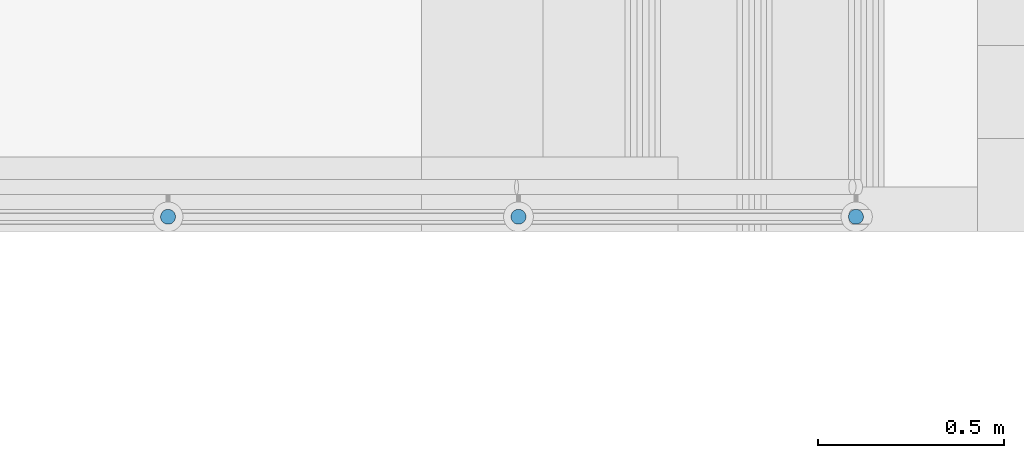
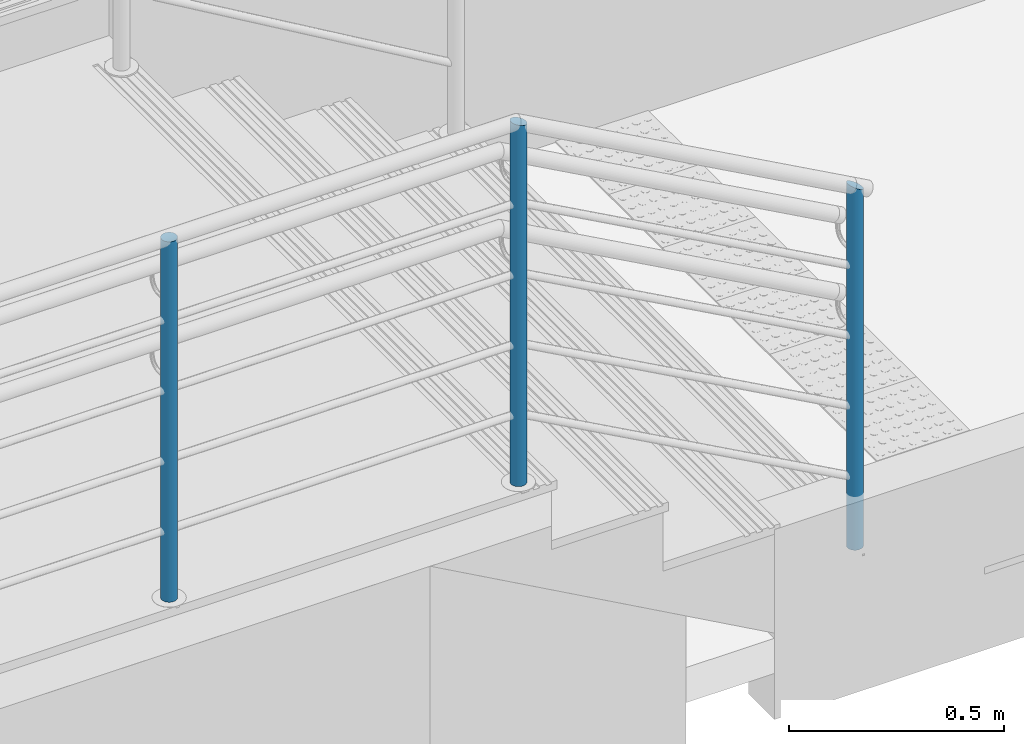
# One storey, part 58 of 237: 3 building element parts, 1 element without a shape of its own.
"""IFC2X3 building model written with IfcOpenShell, lengths in millimetres."""

from ifc_helpers import new_model, entity, si_unit, converted_unit, derived_unit, money_unit, direction, frame, origin_with_axes, place, context, subcontext, project, spatial, faceted_brep, material, type_object, element, aggregate, save


model = new_model("IFC2X3")

# Units and contexts
model_context = context("Model", 3, precision=0.01, world=origin_with_axes(), true_north=direction((0.0, 1.0)))
body_context = subcontext(model_context, "Body", "Model", "MODEL_VIEW")
ifc_project = project(units=[si_unit("LENGTHUNIT", "METRE", prefix="MILLI"), si_unit("AREAUNIT", "SQUARE_METRE"), si_unit("VOLUMEUNIT", "CUBIC_METRE"), converted_unit("PLANEANGLEUNIT", "DEGREE", entity("IfcPlaneAngleMeasure", 0.0174532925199), si_unit("PLANEANGLEUNIT", "RADIAN"), dimensions=[0, 0, 0, 0, 0, 0, 0]), money_unit("USD"), converted_unit("TIMEUNIT", "Year", entity("IfcTimeMeasure", 31556926.0), si_unit("TIMEUNIT", "SECOND"), dimensions=[0, 0, 1, 0, 0, 0, 0]), si_unit("MASSUNIT", "GRAM", prefix="KILO"), si_unit("THERMODYNAMICTEMPERATUREUNIT", "DEGREE_CELSIUS"), si_unit("LUMINOUSINTENSITYUNIT", "LUMEN"), si_unit("ENERGYUNIT", "JOULE", prefix="MEGA"), derived_unit("THERMALCONDUCTANCEUNIT", [(si_unit("POWERUNIT", "WATT"), 1), (si_unit("LENGTHUNIT", "METRE"), -1), (si_unit("THERMODYNAMICTEMPERATUREUNIT", "KELVIN"), -1)]), derived_unit("SPECIFICHEATCAPACITYUNIT", [(si_unit("ENERGYUNIT", "JOULE"), 1), (si_unit("MASSUNIT", "GRAM", prefix="KILO"), -1), (si_unit("THERMODYNAMICTEMPERATUREUNIT", "KELVIN"), -1)]), derived_unit("MASSDENSITYUNIT", [(si_unit("MASSUNIT", "GRAM", prefix="KILO"), 1), (si_unit("VOLUMEUNIT", "CUBIC_METRE"), -1)])], contexts=[model_context])

# Site, building, storey
site_placement = place(None, origin_with_axes())
site = spatial("IfcSite", under=ifc_project, at=site_placement, Name="Local", CompositionType="ELEMENT")
building_placement = place(site_placement, origin_with_axes())
building = spatial("IfcBuilding", under=site, at=building_placement, Name="Construção", CompositionType="ELEMENT")
storey_placement = place(building_placement, origin_with_axes())
storey = spatial("IfcBuildingStorey", under=building, at=storey_placement, Name="Pavimento Térreo", CompositionType="ELEMENT", Elevation=0.0)

# Railing, building element parts
railing_type = type_object("IfcRailingType", Name="Tipo de Guarda-Corpo", PredefinedType="NOTDEFINED")
railing_placement = place(storey_placement, frame((77071.0413397, 23732.4143775, -4865.39060156), z_axis=(0.0, 0.0, 1.0), x_axis=(1.0, 0.0, 0.0)))
railing = element("IfcRailing", 1, at=railing_placement, inside=storey, type_object=railing_type, Name="Guarda-Corpo - 001", PredefinedType="NOTDEFINED")
ifc_material = material(Name="Aço - Inoxidável")
building_element_part_1_placement = place(railing_placement, origin_with_axes())
building_element_part_1 = element("IfcBuildingElementPart", 2, at=building_element_part_1_placement, material=ifc_material, Name="Aço - Inoxidável", context=body_context, shape_type="Brep", body=[
    faceted_brep([(3613.98021794, -3339.69142195, 525.0), (3617.45318149, -3339.99526689, 525.0), (3617.45318149, -3339.99526689, 1550.0), (3613.98021794, -3339.69142195, 1550.89239715), (3620.92614504, -3339.69142195, 525.0), (3610.61277862, -3338.78911931, 525.0), (3607.45318149, -3337.31577497, 525.0), (3604.5974293, -3335.31615575, 525.0), (3602.13229263, -3332.85101908, 525.0), (3600.13267341, -3329.99526689, 525.0), (3598.65932907, -3326.83566976, 525.0), (3597.75702643, -3323.46823044, 525.0), (3597.45318149, -3319.99526689, 525.0), (3597.75702643, -3316.52230334, 525.0), (3598.65932907, -3313.15486402, 525.0), (3600.13267341, -3309.99526689, 525.0), (3602.13229263, -3307.1395147, 525.0), (3604.5974293, -3304.67437803, 525.0), (3607.45318149, -3302.67475882, 525.0), (3610.61277862, -3301.20141448, 525.0), (3613.98021794, -3300.29911183, 525.0), (3617.45318149, -3299.99526689, 525.0), (3620.92614504, -3300.29911183, 525.0), (3624.29358436, -3301.20141448, 525.0), (3627.45318149, -3302.67475882, 525.0), (3630.30893368, -3304.67437803, 525.0), (3632.77407035, -3307.1395147, 525.0), (3634.77368957, -3309.99526689, 525.0), (3636.24703391, -3313.15486402, 525.0), (3637.14933655, -3316.52230334, 525.0), (3637.45318149, -3319.99526689, 525.0), (3637.14933655, -3323.46823044, 525.0), (3636.24703391, -3326.83566976, 525.0), (3634.77368957, -3329.99526689, 525.0), (3632.77407035, -3332.85101908, 525.0), (3630.30893368, -3335.31615575, 525.0), (3627.45318149, -3337.31577497, 525.0), (3624.29358436, -3338.78911931, 525.0), (3620.92614504, -3339.69142195, 1549.10760285), (3597.75702643, -3316.52230334, 1555.06103573), (3597.45318149, -3319.99526689, 1555.13911036), (3597.75702643, -3323.46823044, 1555.06103573), (3598.65932907, -3326.83566976, 1554.82918409), (3600.13267341, -3329.99526689, 1554.45060013), (3602.13229263, -3332.85101908, 1553.93678694), (3604.5974293, -3335.31615575, 1553.30335647), (3607.45318149, -3337.31577497, 1552.56955518), (3610.61277862, -3338.78911931, 1551.75767926), (3624.29358436, -3338.78911931, 1548.24232074), (3627.45318149, -3337.31577497, 1547.43044482), (3630.30893368, -3335.31615575, 1546.69664353), (3632.77407035, -3332.85101908, 1546.06321306), (3634.77368957, -3329.99526689, 1545.54939987), (3636.24703391, -3326.83566976, 1545.17081591), (3637.14933655, -3323.46823044, 1544.93896427), (3637.45318149, -3319.99526689, 1544.86088964), (3637.14933655, -3316.52230334, 1544.93896427), (3636.24703391, -3313.15486402, 1545.17081591), (3634.77368957, -3309.99526689, 1545.54939987), (3632.77407035, -3307.1395147, 1546.06321306), (3630.30893368, -3304.67437803, 1546.69664353), (3627.45318149, -3302.67475882, 1547.43044482), (3624.29358436, -3301.20141448, 1548.24232074), (3620.92614504, -3300.29911183, 1549.10760285), (3617.45318149, -3299.99526689, 1550.0), (3613.98021794, -3300.29911183, 1550.89239715), (3610.61277862, -3301.20141448, 1551.75767926), (3607.45318149, -3302.67475882, 1552.56955518), (3604.5974293, -3304.67437803, 1553.30335647), (3602.13229263, -3307.1395147, 1553.93678694), (3600.13267341, -3309.99526689, 1554.45060013), (3598.65932907, -3313.15486402, 1554.82918409)], [[[0, 1, 2, 3]], [[4, 1, 0, 5, 6, 7, 8, 9, 10, 11, 12, 13, 14, 15, 16, 17, 18, 19, 20, 21, 22, 23, 24, 25, 26, 27, 28, 29, 30, 31, 32, 33, 34, 35, 36, 37]], [[1, 4, 38, 2]], [[39, 40, 41, 42, 43, 44, 45, 46, 47, 3, 2, 38, 48, 49, 50, 51, 52, 53, 54, 55, 56, 57, 58, 59, 60, 61, 62, 63, 64, 65, 66, 67, 68, 69, 70, 71]], [[5, 0, 3, 47]], [[6, 5, 47, 46]], [[7, 6, 46, 45]], [[8, 7, 45, 44]], [[9, 8, 44, 43]], [[10, 9, 43, 42]], [[11, 10, 42, 41]], [[12, 11, 41, 40]], [[13, 12, 40, 39]], [[14, 13, 39, 71]], [[15, 14, 71, 70]], [[16, 15, 70, 69]], [[17, 16, 69, 68]], [[18, 17, 68, 67]], [[19, 18, 67, 66]], [[20, 19, 66, 65]], [[21, 20, 65, 64]], [[22, 21, 64, 63]], [[23, 22, 63, 62]], [[24, 23, 62, 61]], [[25, 24, 61, 60]], [[26, 25, 60, 59]], [[27, 26, 59, 58]], [[28, 27, 58, 57]], [[29, 28, 57, 56]], [[30, 29, 56, 55]], [[31, 30, 55, 54]], [[32, 31, 54, 53]], [[33, 32, 53, 52]], [[34, 33, 52, 51]], [[35, 34, 51, 50]], [[36, 35, 50, 49]], [[37, 36, 49, 48]], [[4, 37, 48, 38]]]),
])
building_element_part_2_placement = place(railing_placement, origin_with_axes())
building_element_part_2 = element("IfcBuildingElementPart", 3, at=building_element_part_2_placement, material=ifc_material, Name="Aço - Inoxidável", context=body_context, shape_type="Brep", body=[
    faceted_brep([(4519.02006685, -3339.69142195, 27.009653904), (4522.4930304, -3339.99526689, 27.009653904), (4522.4930304, -3339.99526689, 1052.0096539), (4519.02006685, -3339.69142195, 1053.92062205), (4525.96599395, -3339.69142195, 27.009653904), (4515.65262753, -3338.78911931, 27.009653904), (4512.4930304, -3337.31577497, 27.009653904), (4509.63727821, -3335.31615575, 27.009653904), (4507.17214154, -3332.85101908, 27.009653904), (4505.17252233, -3329.99526689, 27.009653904), (4503.69917799, -3326.83566976, 27.009653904), (4502.79687534, -3323.46823044, 27.009653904), (4502.4930304, -3319.99526689, 27.009653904), (4502.79687534, -3316.52230334, 27.009653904), (4503.69917799, -3313.15486402, 27.009653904), (4505.17252233, -3309.99526689, 27.009653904), (4507.17214154, -3307.1395147, 27.009653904), (4509.63727821, -3304.67437803, 27.009653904), (4512.4930304, -3302.67475882, 27.009653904), (4515.65262753, -3301.20141448, 27.009653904), (4519.02006685, -3300.29911183, 27.009653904), (4522.4930304, -3299.99526689, 27.009653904), (4525.96599395, -3300.29911183, 27.009653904), (4529.33343327, -3301.20141448, 27.009653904), (4532.4930304, -3302.67475882, 27.009653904), (4535.34878259, -3304.67437803, 27.009653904), (4537.81391926, -3307.1395147, 27.009653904), (4539.81353848, -3309.99526689, 27.009653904), (4541.28688282, -3313.15486402, 27.009653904), (4542.18918546, -3316.52230334, 27.009653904), (4542.4930304, -3319.99526689, 27.009653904), (4542.18918546, -3323.46823044, 27.009653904), (4541.28688282, -3326.83566976, 27.009653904), (4539.81353848, -3329.99526689, 27.009653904), (4537.81391926, -3332.85101908, 27.009653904), (4535.34878259, -3335.31615575, 27.009653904), (4532.4930304, -3337.31577497, 27.009653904), (4529.33343327, -3338.78911931, 27.009653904), (4525.96599395, -3339.69142195, 1050.09868576), (4502.79687534, -3316.52230334, 1062.84729281), (4502.4930304, -3319.99526689, 1063.01448086), (4502.79687534, -3323.46823044, 1062.84729281), (4503.69917799, -3326.83566976, 1062.35080858), (4505.17252233, -3329.99526689, 1061.54011361), (4507.17214154, -3332.85101908, 1060.43984044), (4509.63727821, -3335.31615575, 1059.08342032), (4512.4930304, -3337.31577497, 1057.51206738), (4515.65262753, -3338.78911931, 1055.7735264), (4529.33343327, -3338.78911931, 1048.24578141), (4532.4930304, -3337.31577497, 1046.50724043), (4535.34878259, -3335.31615575, 1044.93588749), (4537.81391926, -3332.85101908, 1043.57946737), (4539.81353848, -3329.99526689, 1042.4791942), (4541.28688282, -3326.83566976, 1041.66849922), (4542.18918546, -3323.46823044, 1041.172015), (4542.4930304, -3319.99526689, 1041.00482695), (4542.18918546, -3316.52230334, 1041.172015), (4541.28688282, -3313.15486402, 1041.66849922), (4539.81353848, -3309.99526689, 1042.4791942), (4537.81391926, -3307.1395147, 1043.57946737), (4535.34878259, -3304.67437803, 1044.93588749), (4532.4930304, -3302.67475882, 1046.50724043), (4529.33343327, -3301.20141448, 1048.24578141), (4525.96599395, -3300.29911183, 1050.09868576), (4522.4930304, -3299.99526689, 1052.0096539), (4519.02006685, -3300.29911183, 1053.92062205), (4515.65262753, -3301.20141448, 1055.7735264), (4512.4930304, -3302.67475882, 1057.51206738), (4509.63727821, -3304.67437803, 1059.08342032), (4507.17214154, -3307.1395147, 1060.43984044), (4505.17252233, -3309.99526689, 1061.54011361), (4503.69917799, -3313.15486402, 1062.35080858)], [[[0, 1, 2, 3]], [[4, 1, 0, 5, 6, 7, 8, 9, 10, 11, 12, 13, 14, 15, 16, 17, 18, 19, 20, 21, 22, 23, 24, 25, 26, 27, 28, 29, 30, 31, 32, 33, 34, 35, 36, 37]], [[1, 4, 38, 2]], [[39, 40, 41, 42, 43, 44, 45, 46, 47, 3, 2, 38, 48, 49, 50, 51, 52, 53, 54, 55, 56, 57, 58, 59, 60, 61, 62, 63, 64, 65, 66, 67, 68, 69, 70, 71]], [[5, 0, 3, 47]], [[6, 5, 47, 46]], [[7, 6, 46, 45]], [[8, 7, 45, 44]], [[9, 8, 44, 43]], [[10, 9, 43, 42]], [[11, 10, 42, 41]], [[12, 11, 41, 40]], [[13, 12, 40, 39]], [[14, 13, 39, 71]], [[15, 14, 71, 70]], [[16, 15, 70, 69]], [[17, 16, 69, 68]], [[18, 17, 68, 67]], [[19, 18, 67, 66]], [[20, 19, 66, 65]], [[21, 20, 65, 64]], [[22, 21, 64, 63]], [[23, 22, 63, 62]], [[24, 23, 62, 61]], [[25, 24, 61, 60]], [[26, 25, 60, 59]], [[27, 26, 59, 58]], [[28, 27, 58, 57]], [[29, 28, 57, 56]], [[30, 29, 56, 55]], [[31, 30, 55, 54]], [[32, 31, 54, 53]], [[33, 32, 53, 52]], [[34, 33, 52, 51]], [[35, 34, 51, 50]], [[36, 35, 50, 49]], [[37, 36, 49, 48]], [[4, 37, 48, 38]]]),
])
building_element_part_3_placement = place(railing_placement, origin_with_axes())
building_element_part_3 = element("IfcBuildingElementPart", 4, at=building_element_part_3_placement, material=ifc_material, Name="Aço - Inoxidável", context=body_context, shape_type="Brep", body=[
    faceted_brep([(2674.2127052, -3339.69142195, 525.0), (2677.68566875, -3339.99526689, 525.0), (2677.68566875, -3339.99526689, 1550.0), (2674.2127052, -3339.69142195, 1550.0), (2681.15863231, -3339.69142195, 525.0), (2670.84526589, -3338.78911931, 525.0), (2667.68566875, -3337.31577497, 525.0), (2664.82991656, -3335.31615575, 525.0), (2662.36477989, -3332.85101908, 525.0), (2660.36516068, -3329.99526689, 525.0), (2658.89181634, -3326.83566976, 525.0), (2657.98951369, -3323.46823044, 525.0), (2657.68566875, -3319.99526689, 525.0), (2657.98951369, -3316.52230334, 525.0), (2658.89181634, -3313.15486402, 525.0), (2660.36516068, -3309.99526689, 525.0), (2662.36477989, -3307.1395147, 525.0), (2664.82991656, -3304.67437803, 525.0), (2667.68566875, -3302.67475882, 525.0), (2670.84526589, -3301.20141448, 525.0), (2674.2127052, -3300.29911183, 525.0), (2677.68566875, -3299.99526689, 525.0), (2681.15863231, -3300.29911183, 525.0), (2684.52607162, -3301.20141448, 525.0), (2687.68566875, -3302.67475882, 525.0), (2690.54142095, -3304.67437803, 525.0), (2693.00655762, -3307.1395147, 525.0), (2695.00617683, -3309.99526689, 525.0), (2696.47952117, -3313.15486402, 525.0), (2697.38182381, -3316.52230334, 525.0), (2697.68566875, -3319.99526689, 525.0), (2697.38182381, -3323.46823044, 525.0), (2696.47952117, -3326.83566976, 525.0), (2695.00617683, -3329.99526689, 525.0), (2693.00655762, -3332.85101908, 525.0), (2690.54142095, -3335.31615575, 525.0), (2687.68566875, -3337.31577497, 525.0), (2684.52607162, -3338.78911931, 525.0), (2681.15863231, -3339.69142195, 1550.0), (2657.98951369, -3316.52230334, 1550.0), (2657.68566875, -3319.99526689, 1550.0), (2657.98951369, -3323.46823044, 1550.0), (2658.89181634, -3326.83566976, 1550.0), (2660.36516068, -3329.99526689, 1550.0), (2662.36477989, -3332.85101908, 1550.0), (2664.82991656, -3335.31615575, 1550.0), (2667.68566875, -3337.31577497, 1550.0), (2670.84526589, -3338.78911931, 1550.0), (2684.52607162, -3338.78911931, 1550.0), (2687.68566875, -3337.31577497, 1550.0), (2690.54142095, -3335.31615575, 1550.0), (2693.00655762, -3332.85101908, 1550.0), (2695.00617683, -3329.99526689, 1550.0), (2696.47952117, -3326.83566976, 1550.0), (2697.38182381, -3323.46823044, 1550.0), (2697.68566875, -3319.99526689, 1550.0), (2697.38182381, -3316.52230334, 1550.0), (2696.47952117, -3313.15486402, 1550.0), (2695.00617683, -3309.99526689, 1550.0), (2693.00655762, -3307.1395147, 1550.0), (2690.54142095, -3304.67437803, 1550.0), (2687.68566875, -3302.67475882, 1550.0), (2684.52607162, -3301.20141448, 1550.0), (2681.15863231, -3300.29911183, 1550.0), (2677.68566875, -3299.99526689, 1550.0), (2674.2127052, -3300.29911183, 1550.0), (2670.84526589, -3301.20141448, 1550.0), (2667.68566875, -3302.67475882, 1550.0), (2664.82991656, -3304.67437803, 1550.0), (2662.36477989, -3307.1395147, 1550.0), (2660.36516068, -3309.99526689, 1550.0), (2658.89181634, -3313.15486402, 1550.0)], [[[0, 1, 2, 3]], [[4, 1, 0, 5, 6, 7, 8, 9, 10, 11, 12, 13, 14, 15, 16, 17, 18, 19, 20, 21, 22, 23, 24, 25, 26, 27, 28, 29, 30, 31, 32, 33, 34, 35, 36, 37]], [[1, 4, 38, 2]], [[39, 40, 41, 42, 43, 44, 45, 46, 47, 3, 2, 38, 48, 49, 50, 51, 52, 53, 54, 55, 56, 57, 58, 59, 60, 61, 62, 63, 64, 65, 66, 67, 68, 69, 70, 71]], [[5, 0, 3, 47]], [[6, 5, 47, 46]], [[7, 6, 46, 45]], [[8, 7, 45, 44]], [[9, 8, 44, 43]], [[10, 9, 43, 42]], [[11, 10, 42, 41]], [[12, 11, 41, 40]], [[13, 12, 40, 39]], [[14, 13, 39, 71]], [[15, 14, 71, 70]], [[16, 15, 70, 69]], [[17, 16, 69, 68]], [[18, 17, 68, 67]], [[19, 18, 67, 66]], [[20, 19, 66, 65]], [[21, 20, 65, 64]], [[22, 21, 64, 63]], [[23, 22, 63, 62]], [[24, 23, 62, 61]], [[25, 24, 61, 60]], [[26, 25, 60, 59]], [[27, 26, 59, 58]], [[28, 27, 58, 57]], [[29, 28, 57, 56]], [[30, 29, 56, 55]], [[31, 30, 55, 54]], [[32, 31, 54, 53]], [[33, 32, 53, 52]], [[34, 33, 52, 51]], [[35, 34, 51, 50]], [[36, 35, 50, 49]], [[37, 36, 49, 48]], [[4, 37, 48, 38]]]),
])
aggregate(railing, [building_element_part_1, building_element_part_2, building_element_part_3])

save(model, "model.ifc")
